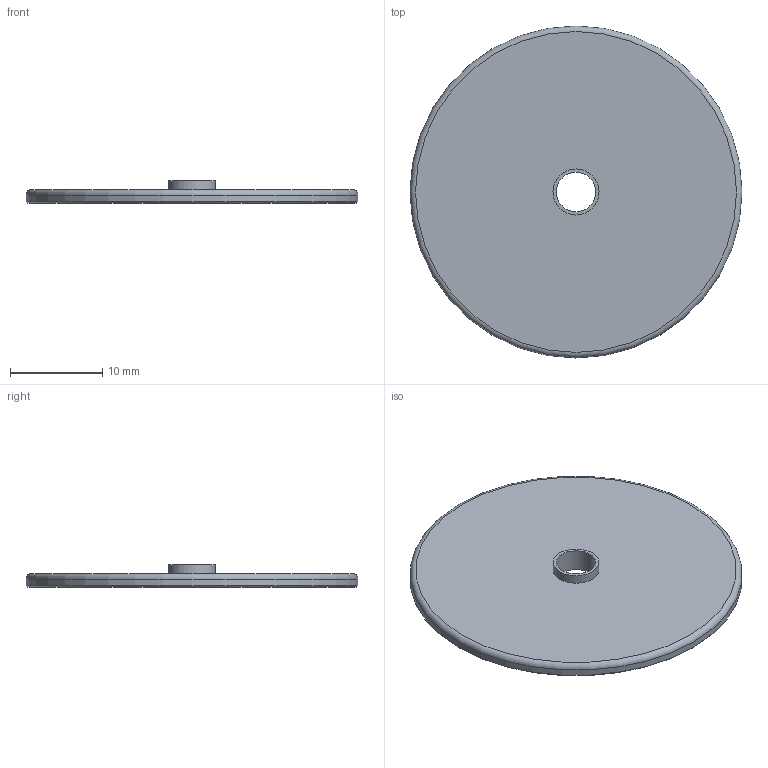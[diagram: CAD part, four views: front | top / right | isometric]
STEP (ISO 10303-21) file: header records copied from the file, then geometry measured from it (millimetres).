
FILE_DESCRIPTION(('Open CASCADE Model'),'2;1');
FILE_NAME('W-ROUND-WR36','2026-10-19T21:23:52',('Author'),( 'Open CASCADE'),'Open CASCADE STEP processor 8.0','build123d', 'Unknown');
FILE_SCHEMA(('AUTOMOTIVE_DESIGN { 1 0 10303 214 1 1 1 1 }'));
Length unit declared in the file: millimetre
Products named in the file (2): W-ROUND-WR36; brass_WR36__w
Assembly tree (1 placements, depth 2):
  W-ROUND-WR36
    brass_WR36__w
Bounding box: 36 x 36 x 2.49 mm (x, y, z)
Volume: 1499.2 mm3; surface area: 2183 mm2
Topology: 1 solids, 1 shells, 8 faces, 13 edges, 8 vertices
Faces by surface type: cylinder 3, plane 3, cone 1, torus 1
Full cylindrical faces by diameter (mm): 4.3 x1, 5 x1, 36 x1
Entity records: 387 total; most frequent: DIRECTION 64, CARTESIAN_POINT 61, ORIENTED_EDGE 26, PCURVE 26, DEFINITIONAL_REPRESENTATION 26, LINE 20, VECTOR 20, AXIS2_PLACEMENT_3D 19
